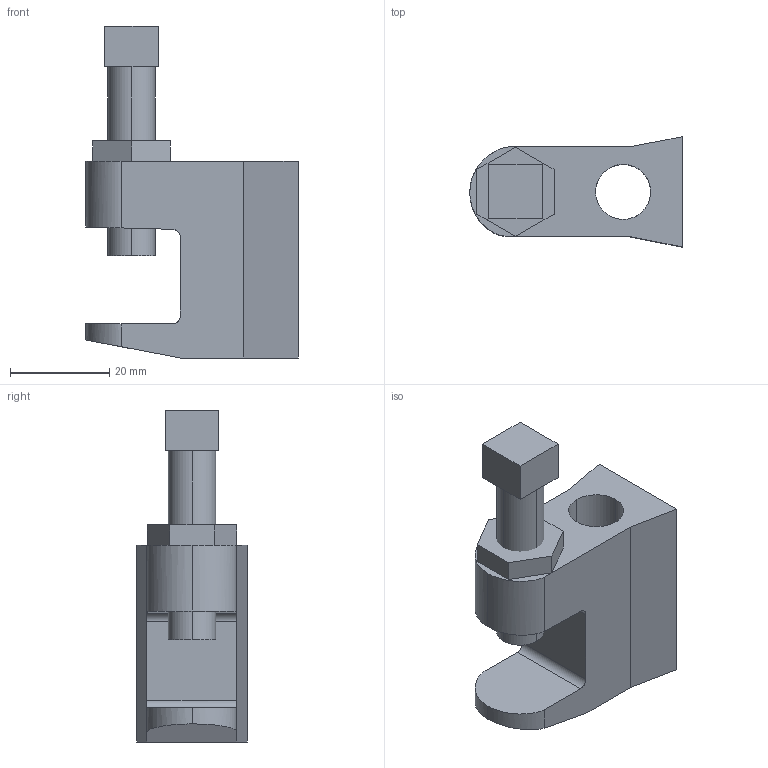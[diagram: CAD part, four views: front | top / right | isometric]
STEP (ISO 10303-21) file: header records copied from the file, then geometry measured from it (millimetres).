
FILE_DESCRIPTION(('TurboCAD Mac Pro'),'Build 980');
FILE_NAME('PFL037.stp',' ',(''),(''),'ACIS Interop','IMSI','TurboCAD Mac Pro BY IMSI, INCORPORATED');
FILE_SCHEMA(('automotive_design'));
Length unit declared in the file: inch
Products named in the file (3): 1; 2; 3
Bounding box: 42.87 x 22.22 x 67.03 mm (x, y, z)
Volume: 24493.1 mm3; surface area: 9715.2 mm2
Topology: 3 solids, 3 shells, 40 faces, 99 edges, 66 vertices
Faces by surface type: plane 26, bspline 14
Entity records: 1701 total; most frequent: CARTESIAN_POINT 450, ORIENTED_EDGE 198, DIRECTION 129, EDGE_CURVE 99, LINE 71, VECTOR 71, VERTEX_POINT 66, STYLED_ITEM 43
